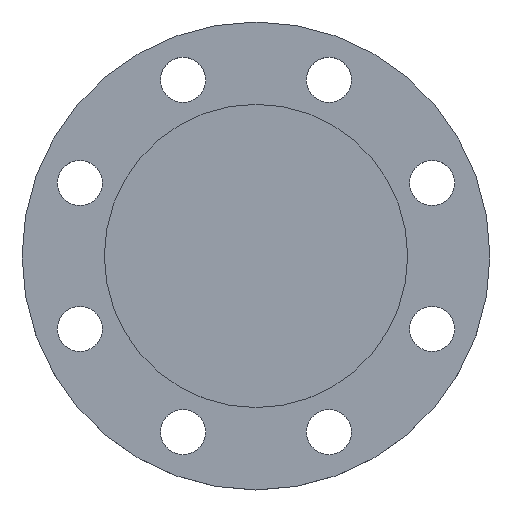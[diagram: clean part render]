
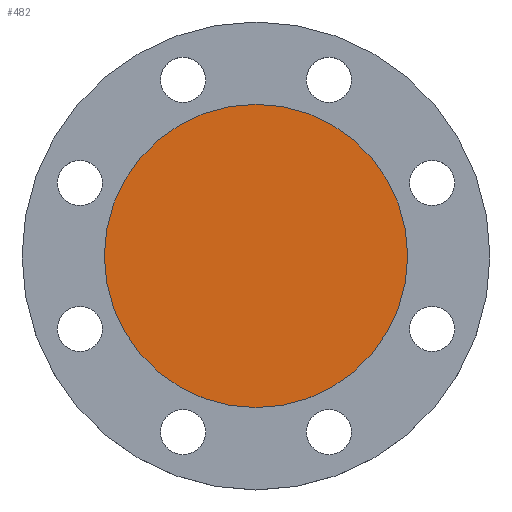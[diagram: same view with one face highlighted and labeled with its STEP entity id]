
A CAD part, top view. The second image highlights one B-rep face of the part: STEP entity #482.
In plain terms, the highlighted planar face has unit normal (0, 0, 1).
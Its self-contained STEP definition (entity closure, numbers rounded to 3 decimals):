
#30 = AXIS2_PLACEMENT_3D ( 'NONE', #215, #192, #214 ) ;
#35 = AXIS2_PLACEMENT_3D ( 'NONE', #174, #189, #177 ) ;
#120 = AXIS2_PLACEMENT_3D ( 'NONE', #728, #719, #714 ) ;
#126 = CIRCLE ( 'NONE', #120, 87.5 ) ;
#174 = CARTESIAN_POINT ( 'NONE',  ( 0., 0., 0. ) ) ;
#175 = PLANE ( 'NONE',  #30 ) ;
#177 = DIRECTION ( 'NONE',  ( -1., 0., 0. ) ) ;
#189 = DIRECTION ( 'NONE',  ( 0., 0., -1. ) ) ;
#192 = DIRECTION ( 'NONE',  ( 0., 0., 1. ) ) ;
#202 = CARTESIAN_POINT ( 'NONE',  ( -87.5, 0., 0. ) ) ;
#212 = FACE_OUTER_BOUND ( 'NONE', #725, .T. ) ;
#214 = DIRECTION ( 'NONE',  ( 1., 0., 0. ) ) ;
#215 = CARTESIAN_POINT ( 'NONE',  ( 0., 0., 0. ) ) ;
#384 = CIRCLE ( 'NONE', #35, 87.5 ) ;
#482 = ADVANCED_FACE ( 'NONE', ( #212 ), #175, .T. ) ;
#553 = VERTEX_POINT ( 'NONE', #202 ) ;
#600 = EDGE_CURVE ( 'NONE', #553, #838, #384, .T. ) ;
#682 = ORIENTED_EDGE ( 'NONE', *, *, #600, .F. ) ;
#685 = ORIENTED_EDGE ( 'NONE', *, *, #878, .F. ) ;
#714 = DIRECTION ( 'NONE',  ( -1., 0., 0. ) ) ;
#719 = DIRECTION ( 'NONE',  ( 0., 0., -1. ) ) ;
#725 = EDGE_LOOP ( 'NONE', ( #682, #685 ) ) ;
#728 = CARTESIAN_POINT ( 'NONE',  ( 0., 0., 0. ) ) ;
#838 = VERTEX_POINT ( 'NONE', #942 ) ;
#878 = EDGE_CURVE ( 'NONE', #838, #553, #126, .T. ) ;
#942 = CARTESIAN_POINT ( 'NONE',  ( 87.5, 0., 0. ) ) ;
